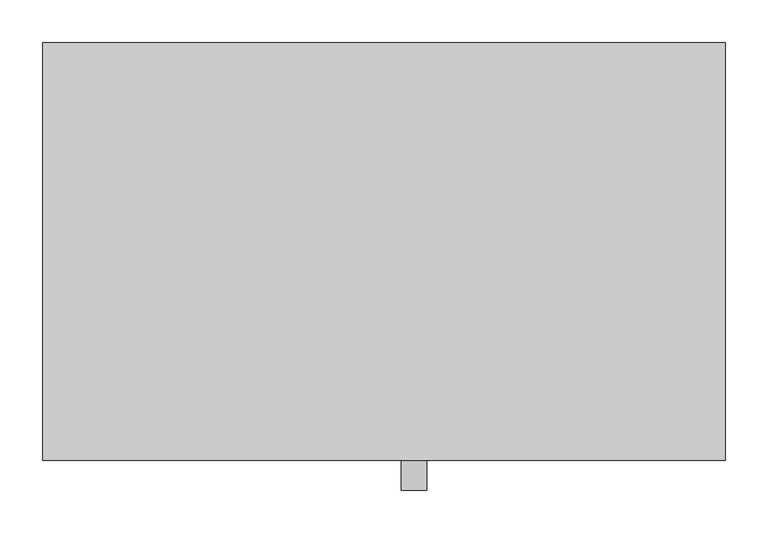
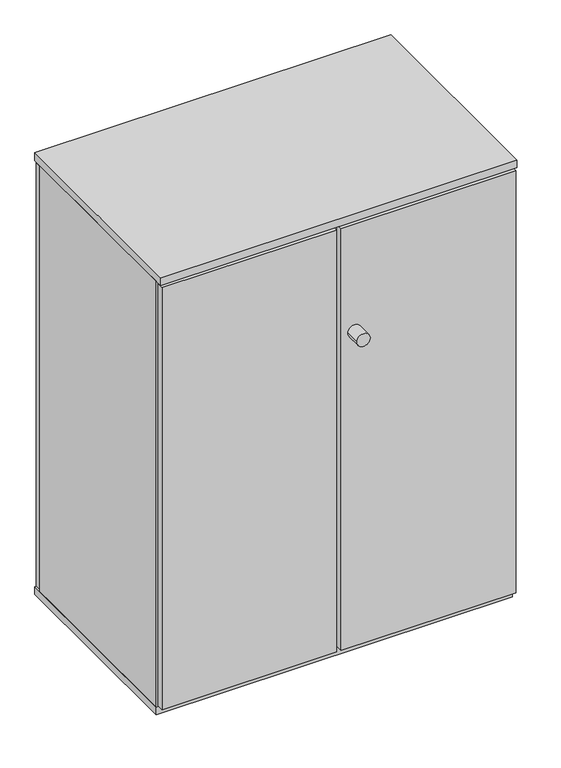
"""IFC4 building model written with IfcOpenShell, lengths in millimetres: furniture geometry, Grid Lockers - 2 Door Complimentary : GRID TWO DOOR CABINET 800mm(w) x 490mm(d) x 1058mm(h)."""

from ifc_helpers import new_model, si_unit, point, frame, frame_2d, origin, origin_with_axes, place, context, project, spatial, polyline, circle_curve, trimmed, segment, composite_curve, outline, extrude, source, transform, mapped, element, save


def furniture_6e16708e(model_context):
    return source(origin(), model_context, "Body", "SweptSolid", [
        extrude(outline(composite_curve([segment(trimmed(circle_curve(frame_2d((750.0, -50.0)), 15.0), [point((735.0, -50.0))], [point((765.0, -50.0))], False, "CARTESIAN"), True, "CONTINUOUS"), segment(trimmed(circle_curve(frame_2d((750.0, -50.0)), 15.0), [point((765.0, -50.0))], [point((735.0, -50.0))], False, "CARTESIAN"), True, "CONTINUOUS")], self_intersect=False)), origin_with_axes(), (0.0, 0.0, 1.0), 10.0),
        extrude(outline(composite_curve([segment(trimmed(circle_curve(frame_2d((50.0, -50.0)), 15.0), [point((35.0, -50.0))], [point((65.0, -50.0))], False, "CARTESIAN"), True, "CONTINUOUS"), segment(trimmed(circle_curve(frame_2d((50.0, -50.0)), 15.0), [point((65.0, -50.0))], [point((35.0, -50.0))], False, "CARTESIAN"), True, "CONTINUOUS")], self_intersect=False)), origin_with_axes(), (0.0, 0.0, 1.0), 10.0),
        extrude(outline(composite_curve([segment(trimmed(circle_curve(frame_2d((50.0, -440.0)), 15.0), [point((35.0, -440.0))], [point((65.0, -440.0))], False, "CARTESIAN"), True, "CONTINUOUS"), segment(trimmed(circle_curve(frame_2d((50.0, -440.0)), 15.0), [point((65.0, -440.0))], [point((35.0, -440.0))], False, "CARTESIAN"), True, "CONTINUOUS")], self_intersect=False)), origin_with_axes(), (0.0, 0.0, 1.0), 10.0),
        extrude(outline(composite_curve([segment(trimmed(circle_curve(frame_2d((750.0, -440.0)), 15.0), [point((735.0, -440.0))], [point((765.0, -440.0))], False, "CARTESIAN"), True, "CONTINUOUS"), segment(trimmed(circle_curve(frame_2d((750.0, -440.0)), 15.0), [point((765.0, -440.0))], [point((735.0, -440.0))], False, "CARTESIAN"), True, "CONTINUOUS")], self_intersect=False)), origin_with_axes(), (0.0, 0.0, 1.0), 10.0),
        extrude(outline(polyline([(800.0, -472.0), (0.0, -472.0), (0.0, 0.0), (800.0, 0.0), (800.0, -472.0)])), frame((0.0, 0.0, 10.0), z_axis=(0.0, 0.0, 1.0), x_axis=(1.0, 0.0, 0.0)), (0.0, 0.0, 1.0), 18.0),
        extrude(outline(polyline([(800.0, -490.0), (0.0, -490.0), (0.0, 0.0), (800.0, 0.0), (800.0, -490.0)])), frame((0.0, 0.0, 1040.0), z_axis=(0.0, 0.0, 1.0), x_axis=(1.0, 0.0, 0.0)), (0.0, 0.0, 1.0), 18.0),
        extrude(outline(composite_curve([segment(trimmed(circle_curve(frame_2d((780.0, 435.0)), 15.0), [point((780.0, 420.0))], [point((780.0, 450.0))], False, "CARTESIAN"), True, "CONTINUOUS"), segment(trimmed(circle_curve(frame_2d((780.0, 435.0)), 15.0), [point((780.0, 450.0))], [point((780.0, 420.0))], False, "CARTESIAN"), True, "CONTINUOUS")], self_intersect=False)), frame((0.0, -525.0, 0.0), z_axis=(0.0, 1.0, 0.0), x_axis=(0.0, 0.0, 1.0)), (0.0, 0.0, 1.0), 35.0),
        extrude(outline(polyline([(1040.0, 800.0), (1040.0, 0.0), (28.0, 0.0), (28.0, 3.0), (1015.0, 3.0), (1015.0, 797.0), (28.0, 797.0), (28.0, 800.0), (1040.0, 800.0)])), frame((0.0, -472.0, 0.0), z_axis=(0.0, 1.0, 0.0), x_axis=(0.0, 0.0, 1.0)), (0.0, 0.0, 1.0), 454.0),
        extrude(outline(polyline([(395.0, -472.0), (395.0, -490.0), (3.0, -490.0), (3.0, -472.0), (395.0, -472.0)])), frame((0.0, 0.0, 32.0), z_axis=(0.0, 0.0, 1.0), x_axis=(1.0, 0.0, 0.0)), (0.0, 0.0, 1.0), 1002.0),
        extrude(outline(polyline([(797.0, -490.0), (405.0, -490.0), (405.0, -472.0), (797.0, -472.0), (797.0, -490.0)])), frame((0.0, 0.0, 32.0), z_axis=(0.0, 0.0, 1.0), x_axis=(1.0, 0.0, 0.0)), (0.0, 0.0, 1.0), 1002.0),
        extrude(outline(polyline([(797.0, 0.0), (797.0, -18.0), (3.0, -18.0), (3.0, 0.0), (797.0, 0.0)])), frame((0.0, 0.0, 18.0), z_axis=(0.0, 0.0, 1.0), x_axis=(1.0, 0.0, 0.0)), (0.0, 0.0, 1.0), 1016.0),
    ])


if __name__ == "__main__":
    model = new_model("IFC4")
    model_context = context("Model", 3, world=origin())
    ifc_project = project(units=[si_unit("LENGTHUNIT", "METRE", prefix="MILLI")], contexts=[model_context])
    site = spatial("IfcSite", under=ifc_project)
    building = spatial("IfcBuilding", under=site)
    placement = place(None, origin())
    furniture_shape = furniture_6e16708e(model_context)
    element("IfcFurniture", 1, ObjectType="Grid Lockers - 2 Door Complimentary : GRID TWO DOOR CABINET 800mm(w) x 490mm(d) x 1058mm(h)", at=placement, inside=building, context=model_context, shape_type="MappedRepresentation", body=[
        mapped(furniture_shape, transform((0.0, 0.0, 0.0), x_axis=(1.0, 0.0, 0.0), y_axis=(0.0, 1.0, 0.0), z_axis=(0.0, 0.0, 1.0))),
    ])
    save(model, "model.ifc")
